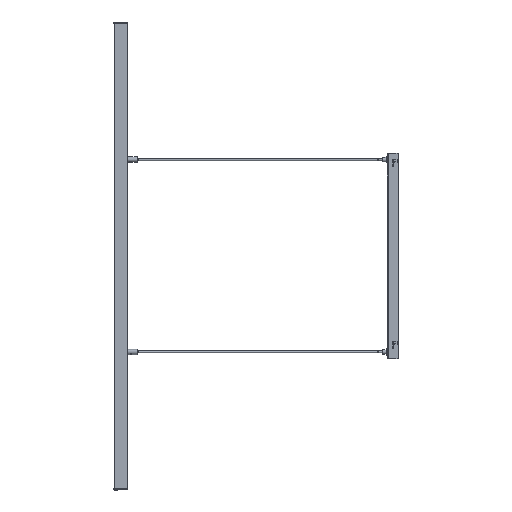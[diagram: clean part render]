
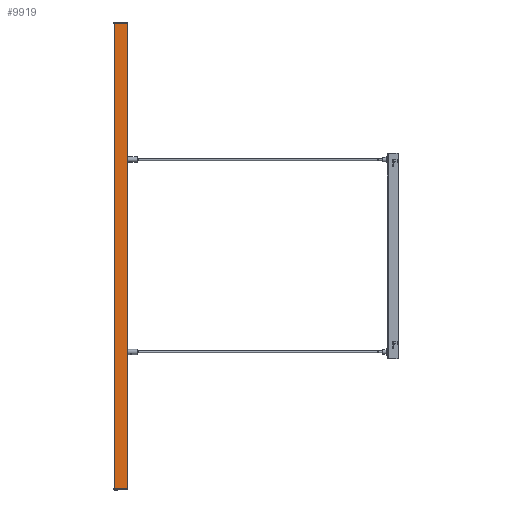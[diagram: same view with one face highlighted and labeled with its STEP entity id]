
A CAD part, left-side view. The second image highlights one B-rep face of the part: STEP entity #9919.
In plain terms, the highlighted planar face has unit normal (-1, 0, 0) as drawn and (0, 0, -1) by its records, which use the part's own axes.
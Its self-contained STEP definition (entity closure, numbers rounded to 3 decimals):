
#65 = ORIENTED_EDGE ( 'NONE', *, *, #9984, .F. ) ;
#106 = VECTOR ( 'NONE', #10326, 1000. ) ;
#231 = VERTEX_POINT ( 'NONE', #15538 ) ;
#280 = LINE ( 'NONE', #5306, #106 ) ;
#1180 = CARTESIAN_POINT ( 'NONE',  ( -448., 0.5, -12.75 ) ) ;
#1866 = VERTEX_POINT ( 'NONE', #9581 ) ;
#2456 = VECTOR ( 'NONE', #3450, 1000. ) ;
#2693 = CARTESIAN_POINT ( 'NONE',  ( -448., 24.7, -12.75 ) ) ;
#3268 = VERTEX_POINT ( 'NONE', #12507 ) ;
#3450 = DIRECTION ( 'NONE',  ( 0., 1., 0. ) ) ;
#3777 = VECTOR ( 'NONE', #6347, 1000. ) ;
#4271 = CARTESIAN_POINT ( 'NONE',  ( 448., 0.5, -12.75 ) ) ;
#4679 = LINE ( 'NONE', #14747, #2456 ) ;
#5060 = FACE_OUTER_BOUND ( 'NONE', #6702, .T. ) ;
#5190 = VERTEX_POINT ( 'NONE', #2693 ) ;
#5306 = CARTESIAN_POINT ( 'NONE',  ( 448., 24.7, -12.75 ) ) ;
#5759 = EDGE_CURVE ( 'NONE', #3268, #1866, #15191, .T. ) ;
#6030 = ORIENTED_EDGE ( 'NONE', *, *, #8579, .T. ) ;
#6347 = DIRECTION ( 'NONE',  ( 0., 1., 0. ) ) ;
#6457 = PLANE ( 'NONE',  #10890 ) ;
#6702 = EDGE_LOOP ( 'NONE', ( #6030, #65, #13047, #9235 ) ) ;
#8579 = EDGE_CURVE ( 'NONE', #1866, #5190, #13625, .T. ) ;
#9006 = DIRECTION ( 'NONE',  ( 0., 0., 1. ) ) ;
#9094 = CARTESIAN_POINT ( 'NONE',  ( 448., 0.5, -12.75 ) ) ;
#9235 = ORIENTED_EDGE ( 'NONE', *, *, #5759, .T. ) ;
#9502 = EDGE_CURVE ( 'NONE', #3268, #231, #4679, .T. ) ;
#9581 = CARTESIAN_POINT ( 'NONE',  ( -448., 0.5, -12.75 ) ) ;
#9919 = ADVANCED_FACE ( 'NONE', ( #5060 ), #6457, .F. ) ;
#9984 = EDGE_CURVE ( 'NONE', #231, #5190, #280, .T. ) ;
#10326 = DIRECTION ( 'NONE',  ( -1., 0., 0. ) ) ;
#10606 = DIRECTION ( 'NONE',  ( -1., 0., 0. ) ) ;
#10890 = AXIS2_PLACEMENT_3D ( 'NONE', #9094, #9006, #13816 ) ;
#12507 = CARTESIAN_POINT ( 'NONE',  ( 448., 0.5, -12.75 ) ) ;
#13047 = ORIENTED_EDGE ( 'NONE', *, *, #9502, .F. ) ;
#13625 = LINE ( 'NONE', #1180, #3777 ) ;
#13816 = DIRECTION ( 'NONE',  ( 0., -1., 0. ) ) ;
#14747 = CARTESIAN_POINT ( 'NONE',  ( 448., 0.5, -12.75 ) ) ;
#15191 = LINE ( 'NONE', #4271, #15502 ) ;
#15502 = VECTOR ( 'NONE', #10606, 1000. ) ;
#15538 = CARTESIAN_POINT ( 'NONE',  ( 448., 24.7, -12.75 ) ) ;
